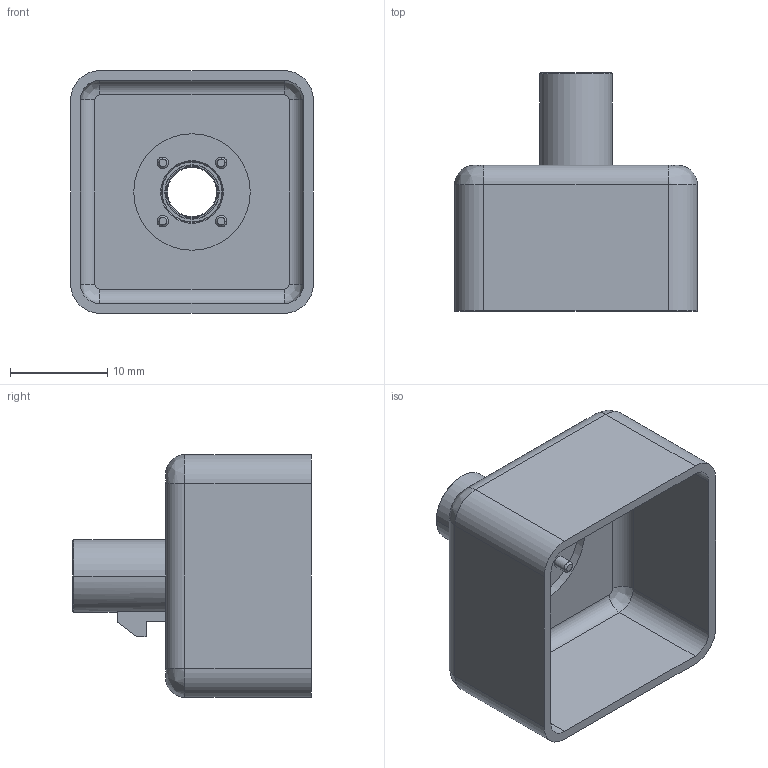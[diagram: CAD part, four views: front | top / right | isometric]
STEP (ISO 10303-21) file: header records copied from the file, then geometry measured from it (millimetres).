
FILE_DESCRIPTION((''),'2;1');
FILE_NAME('R_CASE_HSGAA3','2025-02-10T14:42:52',('sssuzuki'),(''),'CREO PARAMETRIC BY PTC INC, 2022162','CREO PARAMETRIC BY PTC INC, 2022162','');
FILE_SCHEMA(('AP242_MANAGED_MODEL_BASED_3D_ENGINEERING_MIM_LF { 1 0 10303 442 1 1 4 }'));
Length unit declared in the file: millimetre
Products named in the file (1): R_CASE_HSGAA3
Bounding box: 25 x 24.55 x 25 mm (x, y, z)
Volume: 2668.1 mm3; surface area: 4090 mm2
Topology: 1 solids, 1 shells, 93 faces, 207 edges, 126 vertices
Faces by surface type: cylinder 36, plane 27, cone 18, bspline 8, torus 4
Entity records: 3682 total; most frequent: CARTESIAN_POINT 548, DIRECTION 487, ORIENTED_EDGE 414, PRESENTATION_STYLE_ASSIGNMENT 208, STYLED_ITEM 208, CURVE_STYLE 207, EDGE_CURVE 207, AXIS2_PLACEMENT_3D 195
